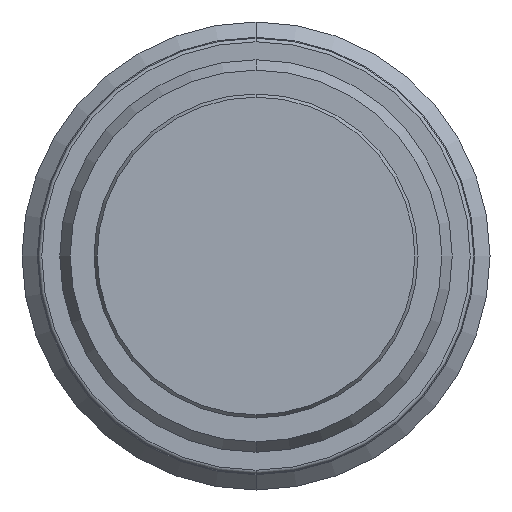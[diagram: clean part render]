
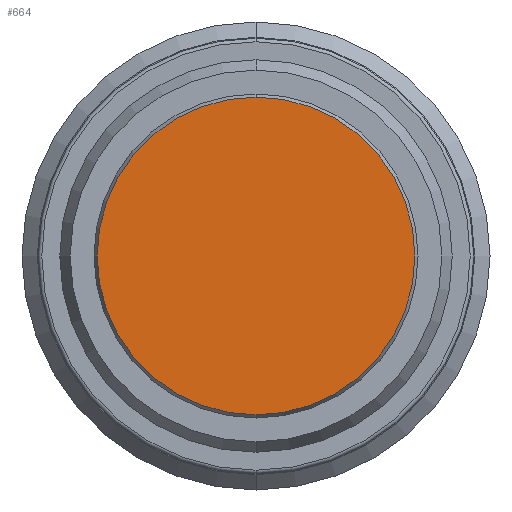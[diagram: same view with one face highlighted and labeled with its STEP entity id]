
A CAD part, front view. The second image highlights one B-rep face of the part: STEP entity #664.
In plain terms, the highlighted planar face has unit normal (0, -1, 0).
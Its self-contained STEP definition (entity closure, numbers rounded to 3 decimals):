
#504=PLANE('',#2200);
#664=ADVANCED_FACE('',(#779),#504,.T.);
#779=FACE_OUTER_BOUND('',#886,.T.);
#886=EDGE_LOOP('',(#1479,#1480));
#1479=ORIENTED_EDGE('',*,*,#1746,.F.);
#1480=ORIENTED_EDGE('',*,*,#1853,.F.);
#1564=VERTEX_POINT('',#3008);
#1565=VERTEX_POINT('',#3009);
#1746=EDGE_CURVE('',#1564,#1565,#1926,.T.);
#1853=EDGE_CURVE('',#1565,#1564,#1977,.T.);
#1926=CIRCLE('',#2104,8.827);
#1977=CIRCLE('',#2198,8.827);
#2104=AXIS2_PLACEMENT_3D('',#3007,#2496,#2497);
#2198=AXIS2_PLACEMENT_3D('',#3281,#2720,#2721);
#2200=AXIS2_PLACEMENT_3D('',#3283,#2724,#2725);
#2496=DIRECTION('',(0.,1.,0.));
#2497=DIRECTION('',(0.,0.,1.));
#2720=DIRECTION('',(0.,1.,0.));
#2721=DIRECTION('',(0.,0.,1.));
#2724=DIRECTION('',(0.,-1.,0.));
#2725=DIRECTION('',(0.,0.,1.));
#3007=CARTESIAN_POINT('',(0.,-2.5,0.));
#3008=CARTESIAN_POINT('',(0.,-2.5,8.827));
#3009=CARTESIAN_POINT('',(0.,-2.5,-8.827));
#3281=CARTESIAN_POINT('',(0.,-2.5,0.));
#3283=CARTESIAN_POINT('',(0.,-2.5,0.));
